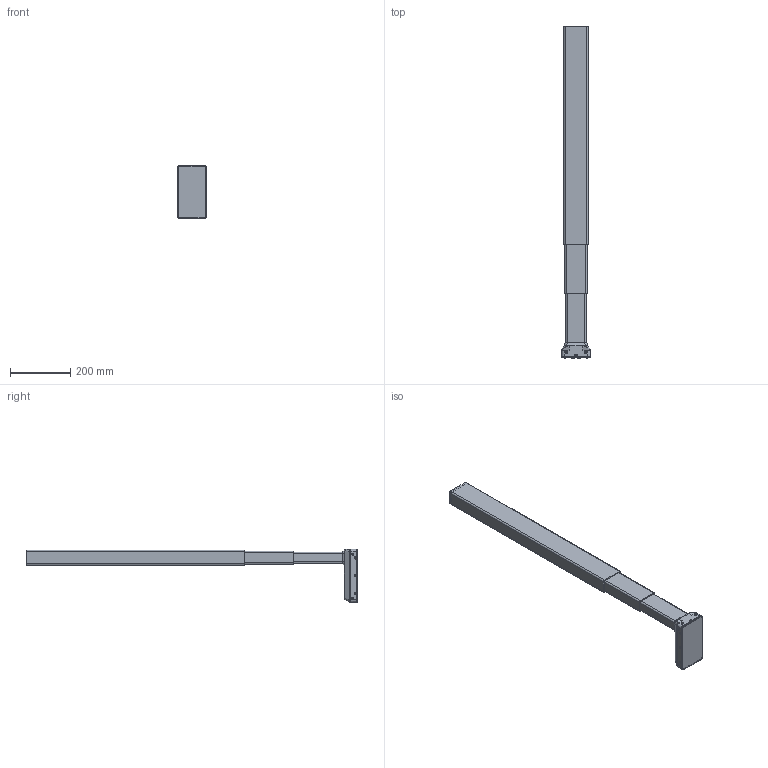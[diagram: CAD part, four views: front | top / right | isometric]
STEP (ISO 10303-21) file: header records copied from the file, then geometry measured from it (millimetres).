
FILE_DESCRIPTION((''),'2;1');
FILE_NAME('1041W4023','2023-11-15T14:24:41',('jak'),(''),'CREO PARAMETRIC BY PTC INC, 2022024','CREO PARAMETRIC BY PTC INC, 2022024','');
FILE_SCHEMA(('AUTOMOTIVE_DESIGN { 1 0 10303 214 1 1 1 1 }'));
Length unit declared in the file: millimetre
Products named in the file (1): 1041W4023
Bounding box: 96.5 x 1100 x 178.6 mm (x, y, z)
Volume: 4511733.6 mm3; surface area: 317604.9 mm2
Topology: 1 solids, 5 shells, 847 faces, 2115 edges, 1317 vertices
Faces by surface type: plane 367, cylinder 330, bspline 68, torus 60, sphere 14, cone 8
Entity records: 32815 total; most frequent: CARTESIAN_POINT 11529, ORIENTED_EDGE 4226, DIRECTION 3915, EDGE_CURVE 2113, AXIS2_PLACEMENT_3D 1389, VERTEX_POINT 1317, VECTOR 1137, LINE 1137
